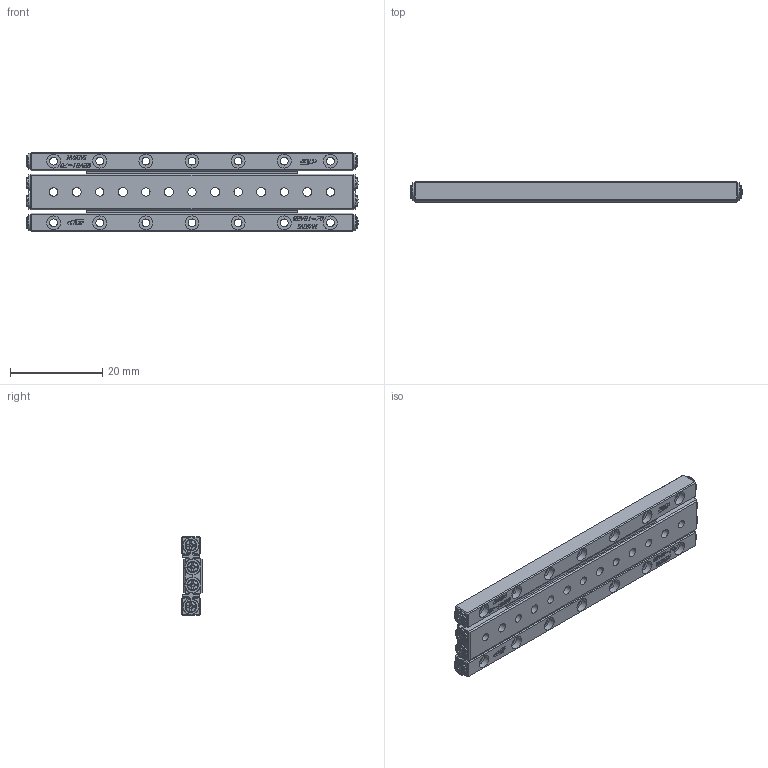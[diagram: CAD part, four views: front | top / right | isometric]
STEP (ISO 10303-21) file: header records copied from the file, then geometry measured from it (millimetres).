
FILE_DESCRIPTION (( 'STEP AP203' ), '1' );
FILE_NAME ('GRD01-70.STEP', '2023-08-09T06:33:33', ( '' ), ( '' ), 'SwSTEP 2.0', 'SolidWorks 2019', '' );
FILE_SCHEMA (( 'CONFIG_CONTROL_DESIGN' ));
Length unit declared in the file: millimetre
Products named in the file (4): GRV01-70-模糊化軌道; GRVP01-70-模糊化保持器組; GRD01-70-模糊化中軌; GRD01-70
Assembly tree (5 placements, depth 2):
  GRD01-70
    GRD01-70-模糊化中軌
    GRV01-70-模糊化軌道  x2
    GRVP01-70-模糊化保持器組  x2
Bounding box: 71.96 x 4.5 x 17 mm (x, y, z)
Volume: 3992.7 mm3; surface area: 5995.5 mm2
Topology: 5 solids, 13 shells, 1952 faces, 4912 edges, 3196 vertices
Faces by surface type: plane 1324, bspline 264, cylinder 192, torus 84, cone 80, sphere 8
Full cylindrical faces by diameter (mm): 1.32 x4, 1.4 x4, 1.7 x14, 1.8 x7, 2 x6, 2.5 x8, 3 x21, 3.5 x8
Entity records: 39506 total; most frequent: CARTESIAN_POINT 12372, ORIENTED_EDGE 5716, DIRECTION 4824, EDGE_CURVE 2858, VECTOR 1912, LINE 1912, VERTEX_POINT 1894, AXIS2_PLACEMENT_3D 1456
